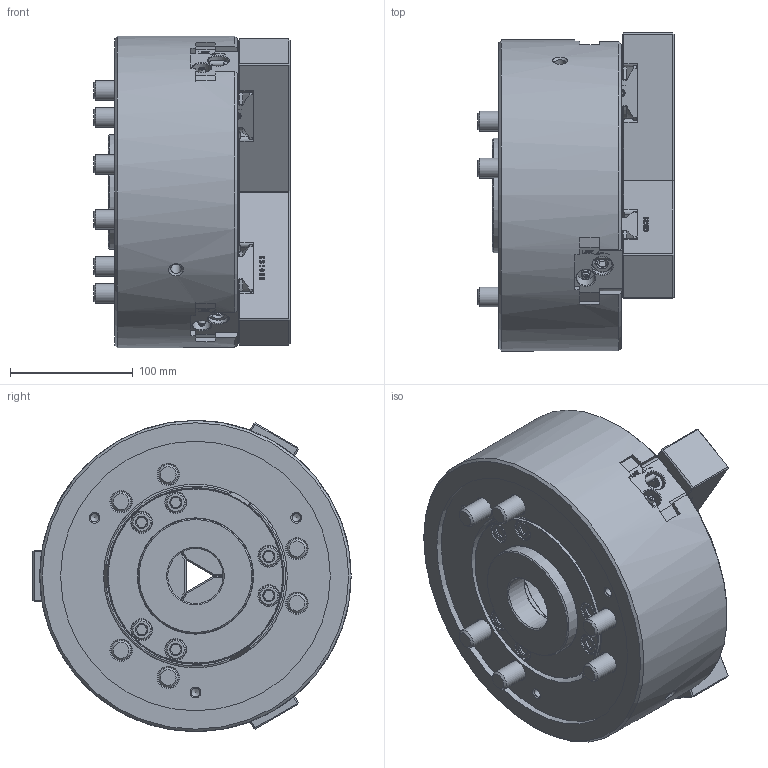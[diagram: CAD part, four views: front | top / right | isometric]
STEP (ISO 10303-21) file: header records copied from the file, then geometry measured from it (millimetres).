
FILE_DESCRIPTION (( 'STEP AP214' ), '1' );
FILE_NAME ('DT1_QB310_OUTSIDE_VIEW_OC.STEP', '2024-05-16T00:49:02', ( '' ), ( '' ), 'SwSTEP 2.0', 'SolidWorks 2022', '' );
FILE_SCHEMA (( 'AUTOMOTIVE_DESIGN' ));
Length unit declared in the file: millimetre
Products named in the file (7): DT1_QB310_COVER^DT1_QB310_ﾃﾞﾌｫﾙﾄ; DT1_QB310_BASE^DT1_QB310_閉端; DT1_QB310_DRAWNUT^DT1_QB310_ﾃﾞﾌｫﾙﾄ; DT1_QB310_M16x100^DT1_QB310_ﾃﾞﾌｫﾙﾄ; DT1_QB310_OUTSIDE_VIEW_OC; DT1_QB310_M6x10^DT1_QB310_ﾃﾞﾌｫﾙﾄ; DT1_QB310_SOFTJAW^DT1_QB310_ﾃﾞﾌｫﾙﾄ
Assembly tree (15 placements, depth 2):
  DT1_QB310_OUTSIDE_VIEW_OC
    DT1_QB310_SOFTJAW^DT1_QB310_ﾃﾞﾌｫﾙﾄ  x3
    DT1_QB310_DRAWNUT^DT1_QB310_ﾃﾞﾌｫﾙﾄ
    DT1_QB310_COVER^DT1_QB310_ﾃﾞﾌｫﾙﾄ
    DT1_QB310_M6x10^DT1_QB310_ﾃﾞﾌｫﾙﾄ  x3
    DT1_QB310_M16x100^DT1_QB310_ﾃﾞﾌｫﾙﾄ  x6
    DT1_QB310_BASE^DT1_QB310_閉端
Bounding box: 160 x 259.61 x 254 mm (x, y, z)
Volume: 5080475.2 mm3; surface area: 481995.8 mm2
Topology: 15 solids, 15 shells, 2313 faces, 6062 edges, 3936 vertices
Faces by surface type: plane 1224, bspline 510, cylinder 267, cone 264, torus 42, sphere 6
Full cylindrical faces by diameter (mm): 2 x3, 4.5 x3, 5 x9, 6 x6, 6.6 x3, 6.8 x3, 8 x3, 8.5 x2, 10 x3, 10.001 x9, 10.5 x3, 11 x3, 13 x6, 15 x3, 16 x6, 16.27 x6, 16.3 x3, 16.5 x3, 16.7 x3, 17 x12, 18 x6, 24.33 x6, 25 x6, 45 x1, 75 x2, 79 x2, 80 x2, 86 x1, 94 x2, 142.7 x1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
Entity records: 70541 total; most frequent: CARTESIAN_POINT 29872, ORIENTED_EDGE 8878, DIRECTION 6941, EDGE_CURVE 4439, VERTEX_POINT 3002, VECTOR 2405, LINE 2405, AXIS2_PLACEMENT_3D 2268
